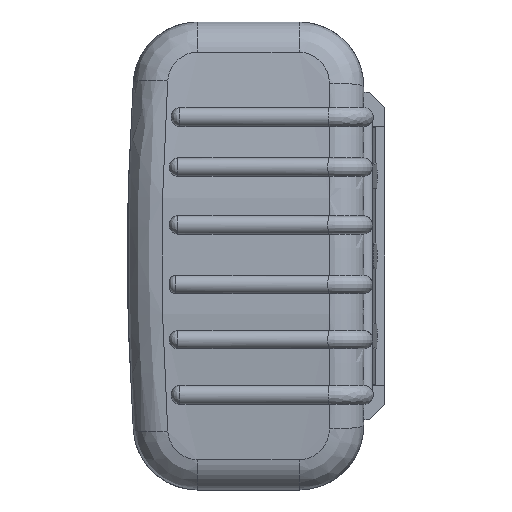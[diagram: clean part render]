
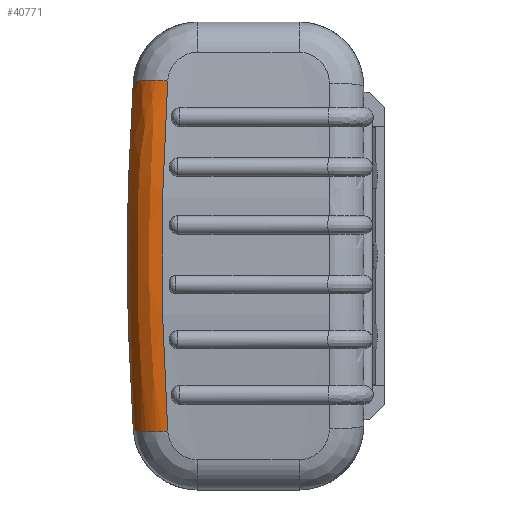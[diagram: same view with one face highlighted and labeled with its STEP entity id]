
A CAD part, left-side view. The second image highlights one B-rep face of the part: STEP entity #40771.
In plain terms, the highlighted free-form (B-spline) face has degree [3, 2] with [6, 3] control points.
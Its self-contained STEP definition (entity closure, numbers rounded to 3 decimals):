
#1817 = CARTESIAN_POINT ( 'NONE',  ( 80.55, 53.428, 40.234 ) ) ;
#2095 = DIRECTION ( 'NONE',  ( 0.106, 0.067, 0.992 ) ) ;
#3284 = CARTESIAN_POINT ( 'NONE',  ( 81.965, 54.328, 26.823 ) ) ;
#3586 = CARTESIAN_POINT ( 'NONE',  ( 91.383, 47.219, 0. ) ) ;
#4954 = EDGE_CURVE ( 'NONE', #19165, #27908, #28812, .T. ) ;
#5189 = CARTESIAN_POINT ( 'NONE',  ( 81.965, 54.328, -26.822 ) ) ;
#5233 = EDGE_CURVE ( 'NONE', #23159, #27908, #40173, .T. ) ;
#5729 = VERTEX_POINT ( 'NONE', #31283 ) ;
#6516 = CARTESIAN_POINT ( 'NONE',  ( 80.55, 53.428, -40.234 ) ) ;
#6662 = CARTESIAN_POINT ( 'NONE',  ( 89.95, 46.334, 27.032 ) ) ;
#6971 = CARTESIAN_POINT ( 'NONE',  ( 88.505, 45.446, 40.548 ) ) ;
#8002 = AXIS2_PLACEMENT_3D ( 'NONE', #32494, #12310, #35922 ) ;
#8497 = B_SPLINE_CURVE_WITH_KNOTS ( 'NONE', 3,
 ( #26846, #37285, #3586, #27157, #6971 ),
 .UNSPECIFIED., .F., .F.,
 ( 4, 1, 4 ),
 ( 0., 0.041, 0.081 ),
 .UNSPECIFIED. ) ;
#9762 = CARTESIAN_POINT ( 'NONE',  ( 88.505, 45.446, -40.548 ) ) ;
#9925 = CARTESIAN_POINT ( 'NONE',  ( 81.965, 54.328, -26.823 ) ) ;
#10081 = CARTESIAN_POINT ( 'NONE',  ( 88.449, 53.371, 41.074 ) ) ;
#10229 = CIRCLE ( 'NONE', #8002, 8. ) ;
#10888 = EDGE_CURVE ( 'NONE', #5729, #23159, #10229, .T. ) ;
#12310 = DIRECTION ( 'NONE',  ( -0.106, -0.067, 0.992 ) ) ;
#13149 = CARTESIAN_POINT ( 'NONE',  ( 88.449, 53.371, -41.074 ) ) ;
#13303 = CARTESIAN_POINT ( 'NONE',  ( 89.95, 46.334, -27.032 ) ) ;
#16678 = CARTESIAN_POINT ( 'NONE',  ( 90.667, 54.777, -13.695 ) ) ;
#18647 = CARTESIAN_POINT ( 'NONE',  ( 83.368, 55.225, 0. ) ) ;
#19165 = VERTEX_POINT ( 'NONE', #9762 ) ;
#20106 = CARTESIAN_POINT ( 'NONE',  ( 82.667, 54.777, 13.411 ) ) ;
#20565 = CARTESIAN_POINT ( 'NONE',  ( 80.55, 53.428, 40.234 ) ) ;
#21149 = EDGE_CURVE ( 'NONE', #19165, #5729, #8497, .T. ) ;
#22203 = ORIENTED_EDGE ( 'NONE', *, *, #21149, .F. ) ;
#22298 = CARTESIAN_POINT ( 'NONE',  ( 80.55, 45.446, -39.698 ) ) ;
#23101 = ORIENTED_EDGE ( 'NONE', *, *, #5233, .F. ) ;
#23159 = VERTEX_POINT ( 'NONE', #20565 ) ;
#23469 = CARTESIAN_POINT ( 'NONE',  ( 90.667, 46.777, 13.516 ) ) ;
#25118 = ORIENTED_EDGE ( 'NONE', *, *, #4954, .T. ) ;
#25673 = DIRECTION ( 'NONE',  ( 0.994, 0., -0.106 ) ) ;
#26827 = CARTESIAN_POINT ( 'NONE',  ( 89.935, 54.311, 27.357 ) ) ;
#26846 = CARTESIAN_POINT ( 'NONE',  ( 88.505, 45.446, -40.548 ) ) ;
#27157 = CARTESIAN_POINT ( 'NONE',  ( 89.95, 46.334, 27.032 ) ) ;
#27908 = VERTEX_POINT ( 'NONE', #31351 ) ;
#28797 = CARTESIAN_POINT ( 'NONE',  ( 80.55, 53.428, -40.234 ) ) ;
#28812 = CIRCLE ( 'NONE', #43922, 8. ) ;
#30121 = CARTESIAN_POINT ( 'NONE',  ( 88.505, 45.446, -40.548 ) ) ;
#30262 = CARTESIAN_POINT ( 'NONE',  ( 80.55, 53.428, 40.234 ) ) ;
#30989 = FACE_OUTER_BOUND ( 'NONE', #38765, .T. ) ;
#31283 = CARTESIAN_POINT ( 'NONE',  ( 88.505, 45.446, 40.548 ) ) ;
#31351 = CARTESIAN_POINT ( 'NONE',  ( 80.55, 53.428, -40.234 ) ) ;
#32494 = CARTESIAN_POINT ( 'NONE',  ( 80.55, 45.446, 39.698 ) ) ;
#33509 = CARTESIAN_POINT ( 'NONE',  ( 89.935, 54.311, -27.357 ) ) ;
#33659 = CARTESIAN_POINT ( 'NONE',  ( 88.505, 45.446, 40.548 ) ) ;
#35922 = DIRECTION ( 'NONE',  ( 0.994, 0., 0.106 ) ) ;
#36955 = CARTESIAN_POINT ( 'NONE',  ( 82.667, 54.777, -13.411 ) ) ;
#37285 = CARTESIAN_POINT ( 'NONE',  ( 89.95, 46.334, -27.032 ) ) ;
#38765 = EDGE_LOOP ( 'NONE', ( #25118, #23101, #40144, #22203 ) ) ;
#40144 = ORIENTED_EDGE ( 'NONE', *, *, #10888, .F. ) ;
#40173 = B_SPLINE_CURVE_WITH_KNOTS ( 'NONE', 3,
 ( #1817, #42322, #18647, #5189, #28797 ),
 .UNSPECIFIED., .F., .F.,
 ( 4, 1, 4 ),
 ( 0., 0.04, 0.08 ),
 .UNSPECIFIED. ) ;
#40384 = CARTESIAN_POINT ( 'NONE',  ( 90.667, 46.777, -13.516 ) ) ;
#40771 = ADVANCED_FACE ( 'NONE', ( #30989 ), #41279, .T. ) ;
#41279 =( BOUNDED_SURFACE ( )  B_SPLINE_SURFACE ( 3, 2, ( 
 ( #6516, #13149, #30121 ),
 ( #9925, #33509, #13303 ),
 ( #36955, #16678, #40384 ),
 ( #20106, #43804, #23469 ),
 ( #3284, #26827, #6662 ),
 ( #30262, #10081, #33659 ) ),
 .UNSPECIFIED., .F., .F., .T. ) 
 B_SPLINE_SURFACE_WITH_KNOTS ( ( 4, 2, 4 ),
 ( 3, 3 ),
 ( 0., 0.04, 0.079 ),
 ( 0., 1. ),
 .UNSPECIFIED. ) 
 GEOMETRIC_REPRESENTATION_ITEM ( )  RATIONAL_B_SPLINE_SURFACE ( (
 ( 1., 0.71, 1.),
 ( 1., 0.708, 1.),
 ( 1., 0.707, 1.),
 ( 1., 0.707, 1.),
 ( 1., 0.708, 1.),
 ( 1., 0.71, 1.) ) ) 
 REPRESENTATION_ITEM ( '' )  SURFACE ( )  );
#42322 = CARTESIAN_POINT ( 'NONE',  ( 81.965, 54.328, 26.822 ) ) ;
#43804 = CARTESIAN_POINT ( 'NONE',  ( 90.667, 54.777, 13.695 ) ) ;
#43922 = AXIS2_PLACEMENT_3D ( 'NONE', #22298, #2095, #25673 ) ;
